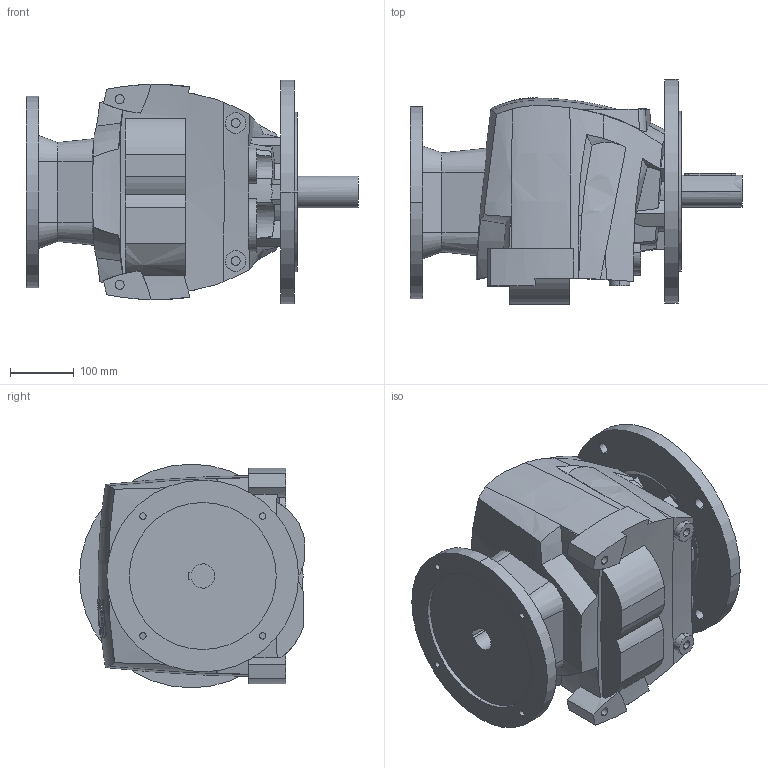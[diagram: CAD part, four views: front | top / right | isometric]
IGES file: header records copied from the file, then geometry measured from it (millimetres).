
Start section:  PTC IGES file: r50_350_pam132.igs
Global section: file name: r50_350_pam132.igs; native system: Pro/ENGINEER by Parametric Technology Corporation; preprocessor: 2008230; author: Luca; organization: Unknown; date: 20131218.224511; units: millimetre
Bounding box: 519.5 x 352.31 x 350 mm (x, y, z)
Volume: 25922354.3 mm3; surface area: 871847.2 mm2
Topology: 1 solids, 7 shells, 424 faces, 1129 edges, 753 vertices
Faces by surface type: bspline 258, revolution 166
